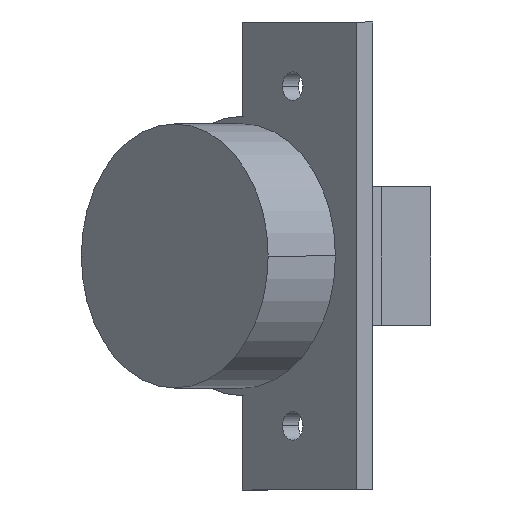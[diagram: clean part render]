
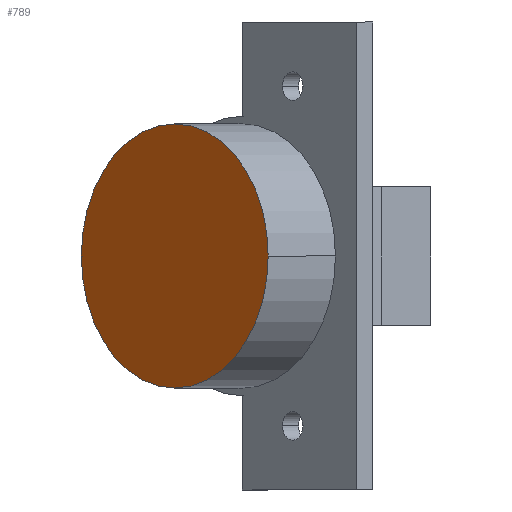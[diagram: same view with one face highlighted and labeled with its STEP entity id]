
A CAD part, front view. The second image highlights one B-rep face of the part: STEP entity #789.
In plain terms, the highlighted planar face has unit normal (-0.707, -0.707, 0).
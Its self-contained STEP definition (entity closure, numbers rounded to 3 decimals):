
#56 = CARTESIAN_POINT ( 'NONE',  ( -6.36, -43.86, 0. ) ) ;
#142 = EDGE_CURVE ( 'NONE', #459, #428, #1521, .T. ) ;
#194 = CARTESIAN_POINT ( 'NONE',  ( -6.36, -43.86, 0. ) ) ;
#195 = FACE_OUTER_BOUND ( 'NONE', #424, .T. ) ;
#232 = CIRCLE ( 'NONE', #1530, 17.5 ) ;
#264 = CARTESIAN_POINT ( 'NONE',  ( -18.734, -31.485, 0. ) ) ;
#367 = ORIENTED_EDGE ( 'NONE', *, *, #142, .T. ) ;
#392 = DIRECTION ( 'NONE',  ( -0.707, -0.707, 0. ) ) ;
#424 = EDGE_LOOP ( 'NONE', ( #1255, #367 ) ) ;
#428 = VERTEX_POINT ( 'NONE', #264 ) ;
#429 = DIRECTION ( 'NONE',  ( 0.707, -0.707, 0. ) ) ;
#430 = AXIS2_PLACEMENT_3D ( 'NONE', #56, #1018, #429 ) ;
#459 = VERTEX_POINT ( 'NONE', #857 ) ;
#667 = AXIS2_PLACEMENT_3D ( 'NONE', #194, #912, #1121 ) ;
#749 = DIRECTION ( 'NONE',  ( 0.707, -0.707, 0. ) ) ;
#789 = ADVANCED_FACE ( 'NONE', ( #195 ), #1013, .T. ) ;
#857 = CARTESIAN_POINT ( 'NONE',  ( 6.015, -56.234, 0. ) ) ;
#912 = DIRECTION ( 'NONE',  ( -0.707, -0.707, 0. ) ) ;
#1013 = PLANE ( 'NONE',  #667 ) ;
#1018 = DIRECTION ( 'NONE',  ( -0.707, -0.707, 0. ) ) ;
#1121 = DIRECTION ( 'NONE',  ( 0.707, -0.707, 0. ) ) ;
#1202 = EDGE_CURVE ( 'NONE', #428, #459, #232, .T. ) ;
#1255 = ORIENTED_EDGE ( 'NONE', *, *, #1202, .T. ) ;
#1316 = CARTESIAN_POINT ( 'NONE',  ( -6.36, -43.86, 0. ) ) ;
#1521 = CIRCLE ( 'NONE', #430, 17.5 ) ;
#1530 = AXIS2_PLACEMENT_3D ( 'NONE', #1316, #392, #749 ) ;
